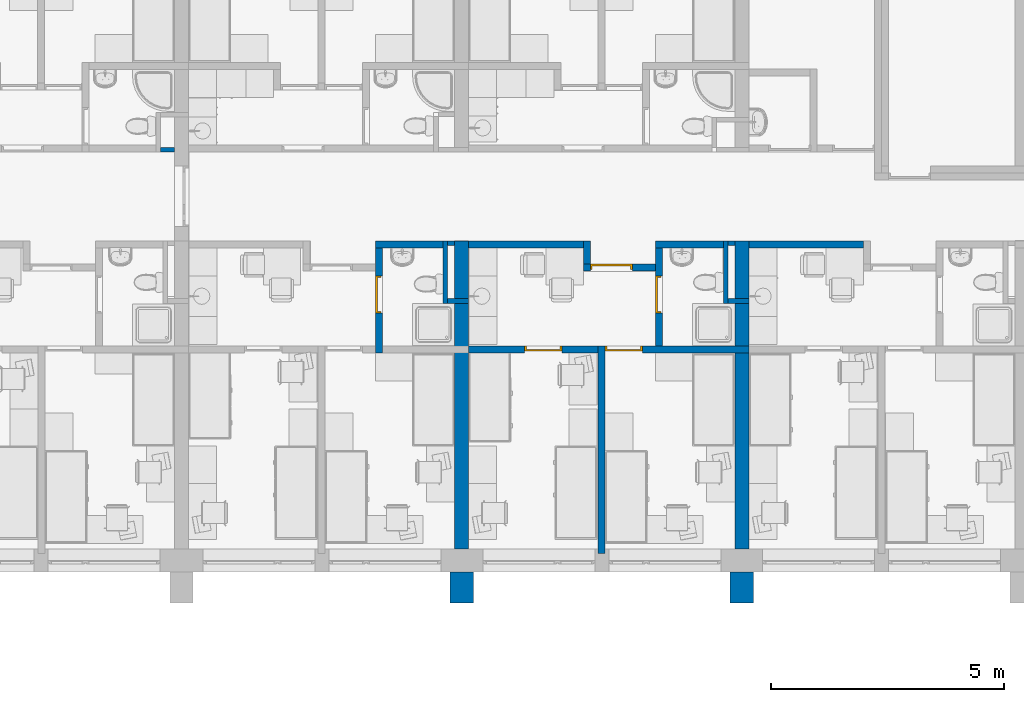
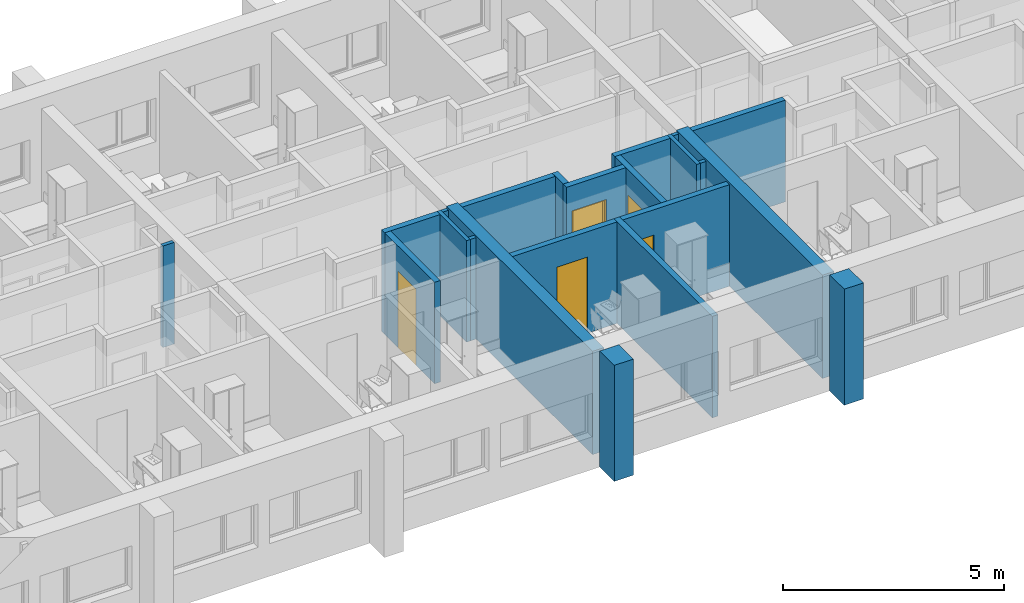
# One storey, part 6 of 165: 21 walls, 5 doors, 5 openings.
"""IFC2X3 building model written with IfcOpenShell, lengths in millimetres."""

from ifc_helpers import new_model, entity, si_unit, converted_unit, money_unit, direction, frame, origin_with_axes, place, context, subcontext, project, spatial, polyline, outline, extrude, faceted_brep, source, transform, mapped, material, material_list, layer, layer_set, layer_usage, type_object, element, fill, save


model = new_model("IFC2X3")

# Units and contexts
model_context = context("Model", 3, precision=1e-05, world=origin_with_axes(), true_north=direction((0.0, 1.0)))
body_context = subcontext(model_context, "Body", "Model", "MODEL_VIEW")
ifc_project = project(units=[si_unit("LENGTHUNIT", "METRE", prefix="MILLI"), si_unit("AREAUNIT", "SQUARE_METRE"), si_unit("VOLUMEUNIT", "CUBIC_METRE"), converted_unit("PLANEANGLEUNIT", "DEGREE", entity("IfcPlaneAngleMeasure", 0.0174532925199), si_unit("PLANEANGLEUNIT", "RADIAN"), dimensions=[0, 0, 0, 0, 0, 0, 0]), si_unit("SOLIDANGLEUNIT", "STERADIAN"), money_unit("USD"), converted_unit("TIMEUNIT", "Year", entity("IfcTimeMeasure", 31556926.0), si_unit("TIMEUNIT", "SECOND"), dimensions=[0, 0, 0, 0, 0, 0, 0]), si_unit("MASSUNIT", "GRAM"), si_unit("THERMODYNAMICTEMPERATUREUNIT", "DEGREE_CELSIUS"), si_unit("LUMINOUSINTENSITYUNIT", "LUMEN")], contexts=[model_context])

# Site, building, storey
site_placement = place(None, origin_with_axes())
site = spatial("IfcSite", under=ifc_project, at=site_placement, Name="Site", CompositionType="ELEMENT")
building_placement = place(site_placement, origin_with_axes())
building = spatial("IfcBuilding", under=site, at=building_placement, Name="Building", CompositionType="ELEMENT")
storey_placement = place(building_placement, frame((0.0, 0.0, 6300.0), z_axis=(0.0, 0.0, 1.0), x_axis=(1.0, 0.0, 0.0)))
storey = spatial("IfcBuildingStorey", under=building, at=storey_placement, Name="4KORRUS", CompositionType="ELEMENT", Elevation=6300.0)

# Walls
ifc_material_1 = material(Name="Olemasolevad seinad tellis, uus viimistlus")
ifc_layer_1 = layer(ifc_material_1, 500.0, ventilated="UNKNOWN")
ifc_layer_set_1 = layer_set([ifc_layer_1], Name="Olemasolevad seinad tellis, uus viimistlus 500")
ifc_layer_usage_1 = layer_usage(ifc_layer_set_1, "AXIS2", "POSITIVE", -100.0)
wall_type_1 = type_object("IfcWallType", Name="Olemasolevad seinad tellis, uus viimistlus 500", PredefinedType="NOTDEFINED")
wall_1_placement = place(storey_placement, frame((-29990.2967033, -20796.6419407, 0.0), z_axis=(0.0, 0.0, 1.0), x_axis=(0.0, 1.0, 0.0)))
element("IfcWallStandardCase", 1, at=wall_1_placement, inside=storey, type_object=wall_type_1, material=ifc_layer_usage_1, Name="VS1", ObjectType="VS1", context=body_context, shape_type="SweptSolid", body=[
    extrude(outline(polyline([(0.0, -100.0), (657.402041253, -100.0), (657.402041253, 400.0), (0.0, 400.0), (0.0, -100.0)])), origin_with_axes(), (0.0, 0.0, 1.0), 3200.0),
])
ifc_layer_usage_2 = layer_usage(ifc_layer_set_1, "AXIS2", "POSITIVE", -100.0)
wall_2_placement = place(storey_placement, frame((-23990.2967033, -20796.6419407, 0.0), z_axis=(0.0, 0.0, 1.0), x_axis=(0.0, 1.0, 0.0)))
element("IfcWallStandardCase", 2, at=wall_2_placement, inside=storey, type_object=wall_type_1, material=ifc_layer_usage_2, Name="VS1", ObjectType="VS1", context=body_context, shape_type="SweptSolid", body=[
    extrude(outline(polyline([(0.0, -100.0), (657.402041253, -100.0), (657.402041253, 400.0), (0.0, 400.0), (0.0, -100.0)])), origin_with_axes(), (0.0, 0.0, 1.0), 3200.0),
])
ifc_material_2 = material(Name="UmbKipsplaat")
ifc_layer_2 = layer(ifc_material_2, 13.0, ventilated="UNKNOWN")
ifc_layer_3 = layer(ifc_material_2, 13.0, ventilated="UNKNOWN")
ifc_material_3 = material(Name="SOOJUSTUS MINERAALVILL")
ifc_layer_4 = layer(ifc_material_3, 98.0, ventilated="UNKNOWN")
ifc_layer_5 = layer(ifc_material_2, 13.0, ventilated="UNKNOWN")
ifc_layer_6 = layer(ifc_material_2, 13.0, ventilated="UNKNOWN")
ifc_layer_set_2 = layer_set([ifc_layer_2, ifc_layer_3, ifc_layer_4, ifc_layer_5, ifc_layer_6], Name="kipssein150")
ifc_layer_usage_3 = layer_usage(ifc_layer_set_2, "AXIS2", "POSITIVE", 0.0)
wall_type_2 = type_object("IfcWallType", Name="kipssein150 150", PredefinedType="NOTDEFINED")
wall_3_placement = place(storey_placement, frame((-21533.8623684, -13039.2398994, 0.0), z_axis=(0.0, 0.0, 1.0), x_axis=(-1.0, 0.0, 0.0)))
element("IfcWallStandardCase", 3, at=wall_3_placement, inside=storey, type_object=wall_type_2, material=ifc_layer_usage_3, Name="SS1", ObjectType="SS1", context=body_context, shape_type="SweptSolid", body=[
    extrude(outline(polyline([(0.0, 0.0), (2456.43433493, 0.0), (2456.43433493, 150.0), (0.0, 150.0), (0.0, 0.0)])), origin_with_axes(), (0.0, 0.0, 1.0), 2800.0),
])
ifc_layer_usage_4 = layer_usage(ifc_layer_set_2, "AXIS2", "POSITIVE", -150.0)
wall_4_placement = place(storey_placement, frame((-25984.201689, -13039.3705726, 0.0), z_axis=(0.0, 0.0, 1.0), x_axis=(1.0, 0.0, 0.0)))
element("IfcWallStandardCase", 4, at=wall_4_placement, inside=storey, type_object=wall_type_2, material=ifc_layer_usage_4, Name="SS1", ObjectType="SS1", context=body_context, shape_type="SweptSolid", body=[
    extrude(outline(polyline([(0.0, -150.0), (1450.19338105, -150.0), (1450.19338105, 0.0), (0.0, 0.0), (0.0, -150.0)])), origin_with_axes(), (0.0, 0.0, 1.0), 2800.0),
])
ifc_layer_usage_5 = layer_usage(ifc_layer_set_2, "AXIS2", "POSITIVE", 0.0)
wall_5_placement = place(storey_placement, frame((-27533.8623684, -13039.2398994, 0.0), z_axis=(0.0, 0.0, 1.0), x_axis=(0.0, -1.0, 0.0)))
element("IfcWallStandardCase", 5, at=wall_5_placement, inside=storey, type_object=wall_type_2, material=ifc_layer_usage_5, Name="SS1", ObjectType="SS1", context=body_context, shape_type="SweptSolid", body=[
    extrude(outline(polyline([(0.0, 0.0), (500.212508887, 0.0), (500.212508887, 150.0), (0.0, 150.0), (0.0, 0.0)])), origin_with_axes(), (0.0, 0.0, 1.0), 2800.0),
])
ifc_layer_usage_6 = layer_usage(ifc_layer_set_2, "AXIS2", "POSITIVE", 0.0)
wall_6_placement = place(storey_placement, frame((-27533.8623684, -13039.2398994, 0.0), z_axis=(0.0, 0.0, 1.0), x_axis=(-1.0, 0.0, 0.0)))
element("IfcWallStandardCase", 6, at=wall_6_placement, inside=storey, type_object=wall_type_2, material=ifc_layer_usage_6, Name="SS1", ObjectType="SS1", context=body_context, shape_type="SweptSolid", body=[
    extrude(outline(polyline([(0.0, 0.0), (2456.43433493, 0.0), (2456.43433493, 150.0), (0.0, 150.0), (0.0, 0.0)])), origin_with_axes(), (0.0, 0.0, 1.0), 2800.0),
])

# Wall, openings, doors
ifc_layer_usage_7 = layer_usage(ifc_layer_set_2, "AXIS2", "POSITIVE", -150.0)
wall_7_placement = place(storey_placement, frame((-23990.2967033, -15439.2398994, 0.0), z_axis=(0.0, 0.0, 1.0), x_axis=(-1.0, 0.0, 0.0)))
wall_7 = element("IfcWallStandardCase", 7, at=wall_7_placement, inside=storey, type_object=wall_type_2, material=ifc_layer_usage_7, Name="SS1", ObjectType="SS1", context=body_context, shape_type="SweptSolid", body=[
    extrude(outline(polyline([(0.0, -150.0), (6000.0, -150.0), (6000.0, 0.0), (0.0, 0.0), (0.0, -150.0)])), origin_with_axes(), (0.0, 0.0, 1.0), 2800.0),
])
opening_1_placement = place(wall_7_placement, frame((4400.0, 0.0, 0.0), z_axis=(0.0, 0.0, 1.0), x_axis=(1.0, 0.0, 0.0)))
opening_1 = element("IfcOpeningElement", 8, at=opening_1_placement, cuts=wall_7, Name="SU3-5", context=body_context, shape_type="SweptSolid", body=[
    extrude(outline(polyline([(-400.0, 0.0), (400.0, 0.0), (400.0, 2100.0), (-400.0, 2100.0), (-400.0, 0.0)])), frame((0.0, 150.0, 0.0), z_axis=(0.0, 1.0, 0.0), x_axis=(-1.0, 0.0, 0.0)), (0.0, 0.0, -1.0), 450.0),
])
opening_2_placement = place(wall_7_placement, frame((2675.0, 0.0, 0.0), z_axis=(0.0, 0.0, 1.0), x_axis=(1.0, 0.0, 0.0)))
opening_2 = element("IfcOpeningElement", 9, at=opening_2_placement, cuts=wall_7, Name="SU3-4", context=body_context, shape_type="SweptSolid", body=[
    extrude(outline(polyline([(-400.0, 0.0), (400.0, 0.0), (400.0, 2100.0), (-400.0, 2100.0), (-400.0, 0.0)])), frame((0.0, 150.0, 0.0), z_axis=(0.0, -1.0, 0.0), x_axis=(1.0, 0.0, 0.0)), (0.0, 0.0, 1.0), 450.0),
])
ifc_material_4 = material(Name="Background")
ifc_material_list = material_list([ifc_material_4])
door_style_1 = type_object("IfcDoorStyle", Name="Door 19", ConstructionType="NOTDEFINED", OperationType="SINGLE_SWING_LEFT", ParameterTakesPrecedence=False, Sizeable=False)
shared_shape_1 = source(origin_with_axes(), body_context, "Body", "Brep", [
    faceted_brep([(360.0, -75.0, 0.0), (360.0, -150.0, 0.0), (360.0, -150.0, 2060.0), (360.0, -75.0, 2060.0), (372.0, -75.0, 0.0), (372.0, -35.0, 0.0), (400.0, -35.0, 0.0), (400.0, -150.0, 0.0), (400.0, -150.0, 2060.0), (372.0, -75.0, 2060.0), (400.0, -35.0, 2060.0), (372.0, -35.0, 2060.0)], [[[0, 1, 2, 3]], [[4, 5, 6, 7, 1, 0]], [[2, 1, 7, 8]], [[9, 3, 2, 8, 10, 11]], [[9, 4, 0, 3]], [[11, 5, 4, 9]], [[11, 10, 6, 5]], [[7, 6, 10, 8]]]),
    faceted_brep([(-372.0, -75.0, 2060.0), (-372.0, -35.0, 2060.0), (-400.0, -35.0, 2060.0), (-400.0, -150.0, 2060.0), (-360.0, -150.0, 2060.0), (-360.0, -75.0, 2060.0), (-372.0, -75.0, 0.0), (-372.0, -35.0, 0.0), (-400.0, -35.0, 0.0), (-400.0, -150.0, 0.0), (-360.0, -150.0, 0.0), (-360.0, -75.0, 0.0)], [[[0, 1, 2, 3, 4, 5]], [[0, 6, 7, 1]], [[7, 8, 2, 1]], [[3, 2, 8, 9]], [[4, 3, 9, 10]], [[5, 4, 10, 11]], [[5, 11, 6, 0]], [[6, 11, 10, 9, 8, 7]]]),
    faceted_brep([(372.0, -35.0, 2072.0), (-372.0, -35.0, 2072.0), (-372.0, -35.0, 2060.0), (-400.0, -35.0, 2060.0), (-400.0, -35.0, 2100.0), (400.0, -35.0, 2100.0), (400.0, -35.0, 2060.0), (372.0, -35.0, 2060.0), (372.0, -75.0, 2072.0), (-372.0, -75.0, 2072.0), (-372.0, -75.0, 2060.0), (-360.0, -75.0, 2060.0), (-360.0, -150.0, 2060.0), (-400.0, -150.0, 2060.0), (-400.0, -150.0, 2100.0), (400.0, -150.0, 2100.0), (400.0, -150.0, 2060.0), (372.0, -75.0, 2060.0), (360.0, -150.0, 2060.0), (360.0, -75.0, 2060.0)], [[[0, 1, 2, 3, 4, 5, 6, 7]], [[0, 8, 9, 1]], [[1, 9, 10, 2]], [[10, 11, 12, 13, 3, 2]], [[14, 4, 3, 13]], [[15, 5, 4, 14]], [[16, 6, 5, 15]], [[17, 7, 6, 16, 18, 19]], [[7, 17, 8, 0]], [[10, 9, 8, 17, 19, 11]], [[19, 18, 12, 11]], [[13, 12, 18, 16, 15, 14]]]),
    faceted_brep([(-372.0, -35.0, 0.0), (372.0, -35.0, 0.0), (372.0, -75.0, 0.0), (-372.0, -75.0, 0.0), (-372.0, -35.0, 2072.0), (372.0, -35.0, 2072.0), (372.0, -75.0, 2072.0), (-372.0, -75.0, 2072.0)], [[[0, 1, 2, 3]], [[0, 4, 5, 1]], [[1, 5, 6, 2]], [[3, 2, 6, 7]], [[4, 0, 3, 7]], [[5, 4, 7, 6]]]),
])
door_1_placement = place(opening_1_placement, frame((-400.0, 0.0, 0.0), z_axis=(0.0, 0.0, 1.0), x_axis=(1.0, 0.0, 0.0)))
door_1 = element("IfcDoor", 10, at=door_1_placement, inside=storey, type_object=door_style_1, material=ifc_material_list, Name="SU3-5", ObjectType="Toa uks", OverallHeight=2100.0, OverallWidth=800.0, context=body_context, shape_type="MappedRepresentation", body=[
    mapped(shared_shape_1, transform((400.0, 0.0, 0.0))),
])
fill(opening_1, door_1)
door_style_2 = type_object("IfcDoorStyle", Name="Door 19", ConstructionType="NOTDEFINED", OperationType="SINGLE_SWING_RIGHT", ParameterTakesPrecedence=False, Sizeable=False)
shared_shape_2 = source(origin_with_axes(), body_context, "Body", "Brep", [
    faceted_brep([(-360.0, -75.0, 0.0), (-360.0, -75.0, 2060.0), (-360.0, -150.0, 2060.0), (-360.0, -150.0, 0.0), (-372.0, -75.0, 2060.0), (-372.0, -75.0, 0.0), (-372.0, -35.0, 2060.0), (-400.0, -35.0, 2060.0), (-400.0, -150.0, 2060.0), (-400.0, -150.0, 0.0), (-400.0, -35.0, 0.0), (-372.0, -35.0, 0.0)], [[[0, 1, 2, 3]], [[4, 1, 0, 5]], [[4, 6, 7, 8, 2, 1]], [[2, 8, 9, 3]], [[5, 0, 3, 9, 10, 11]], [[6, 4, 5, 11]], [[6, 11, 10, 7]], [[9, 8, 7, 10]]]),
    faceted_brep([(372.0, -75.0, 2060.0), (360.0, -75.0, 2060.0), (360.0, -150.0, 2060.0), (400.0, -150.0, 2060.0), (400.0, -35.0, 2060.0), (372.0, -35.0, 2060.0), (372.0, -75.0, 0.0), (360.0, -75.0, 0.0), (360.0, -150.0, 0.0), (400.0, -150.0, 0.0), (400.0, -35.0, 0.0), (372.0, -35.0, 0.0)], [[[0, 1, 2, 3, 4, 5]], [[1, 0, 6, 7]], [[1, 7, 8, 2]], [[2, 8, 9, 3]], [[3, 9, 10, 4]], [[11, 5, 4, 10]], [[0, 5, 11, 6]], [[6, 11, 10, 9, 8, 7]]]),
    faceted_brep([(-372.0, -35.0, 2072.0), (-372.0, -35.0, 2060.0), (-400.0, -35.0, 2060.0), (-400.0, -35.0, 2100.0), (400.0, -35.0, 2100.0), (400.0, -35.0, 2060.0), (372.0, -35.0, 2060.0), (372.0, -35.0, 2072.0), (-372.0, -75.0, 2072.0), (-372.0, -75.0, 2060.0), (-360.0, -75.0, 2060.0), (-360.0, -150.0, 2060.0), (-400.0, -150.0, 2060.0), (-400.0, -150.0, 2100.0), (400.0, -150.0, 2100.0), (400.0, -150.0, 2060.0), (372.0, -75.0, 2060.0), (360.0, -150.0, 2060.0), (360.0, -75.0, 2060.0), (372.0, -75.0, 2072.0)], [[[0, 1, 2, 3, 4, 5, 6, 7]], [[1, 0, 8, 9]], [[9, 10, 11, 12, 2, 1]], [[12, 13, 3, 2]], [[13, 14, 4, 3]], [[14, 15, 5, 4]], [[16, 6, 5, 15, 17, 18]], [[7, 6, 16, 19]], [[0, 7, 19, 8]], [[16, 18, 10, 9, 8, 19]], [[10, 18, 17, 11]], [[15, 14, 13, 12, 11, 17]]]),
    faceted_brep([(372.0, -35.0, 0.0), (372.0, -75.0, 0.0), (-372.0, -75.0, 0.0), (-372.0, -35.0, 0.0), (372.0, -35.0, 2072.0), (372.0, -75.0, 2072.0), (-372.0, -75.0, 2072.0), (-372.0, -35.0, 2072.0)], [[[0, 1, 2, 3]], [[4, 5, 1, 0]], [[1, 5, 6, 2]], [[3, 2, 6, 7]], [[0, 3, 7, 4]], [[7, 6, 5, 4]]]),
])
door_2_placement = place(opening_2_placement, frame((-400.0, 0.0, 0.0), z_axis=(0.0, 0.0, 1.0), x_axis=(1.0, 0.0, 0.0)))
door_2 = element("IfcDoor", 11, at=door_2_placement, inside=storey, type_object=door_style_2, material=ifc_material_list, Name="SU3-4", ObjectType="Toa uks", OverallHeight=2100.0, OverallWidth=800.0, context=body_context, shape_type="MappedRepresentation", body=[
    mapped(shared_shape_2, transform((400.0, 0.0, 0.0))),
])
fill(opening_2, door_2)

# Wall
ifc_layer_usage_8 = layer_usage(ifc_layer_set_2, "AXIS2", "POSITIVE", -150.0)
wall_8_placement = place(storey_placement, frame((-31984.201689, -13039.3705726, 0.0), z_axis=(0.0, 0.0, 1.0), x_axis=(1.0, 0.0, 0.0)))
element("IfcWallStandardCase", 12, at=wall_8_placement, inside=storey, type_object=wall_type_2, material=ifc_layer_usage_8, Name="SS1", ObjectType="SS1", context=body_context, shape_type="SweptSolid", body=[
    extrude(outline(polyline([(0.0, -150.0), (1450.19338105, -150.0), (1450.19338105, 0.0), (0.0, 0.0), (0.0, -150.0)])), origin_with_axes(), (0.0, 0.0, 1.0), 2800.0),
])

# Wall, opening, door
ifc_layer_usage_9 = layer_usage(ifc_layer_set_2, "AXIS2", "POSITIVE", 0.0)
wall_9_placement = place(storey_placement, frame((-25984.201689, -13539.4524083, 0.0), z_axis=(0.0, 0.0, 1.0), x_axis=(-1.0, 0.0, 0.0)))
wall_9 = element("IfcWallStandardCase", 13, at=wall_9_placement, inside=storey, type_object=wall_type_2, material=ifc_layer_usage_9, Name="SS1", ObjectType="SS1", context=body_context, shape_type="SweptSolid", body=[
    extrude(outline(polyline([(0.0, 0.0), (1549.66067938, 0.0), (1549.66067938, 150.0), (0.0, 150.0), (0.0, 0.0)])), origin_with_axes(), (0.0, 0.0, 1.0), 2800.0),
])
opening_3_placement = place(wall_9_placement, frame((949.660679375, 0.0, 0.0), z_axis=(0.0, 0.0, 1.0), x_axis=(1.0, 0.0, 0.0)))
opening_3 = element("IfcOpeningElement", 14, at=opening_3_placement, cuts=wall_9, Name="SU2-6", context=body_context, shape_type="SweptSolid", body=[
    extrude(outline(polyline([(-450.0, -2100.0), (450.0, -2100.0), (450.0, 0.0), (-450.0, 0.0), (-450.0, -2100.0)])), frame((0.0, 150.0, 0.0), z_axis=(0.0, 1.0, 0.0), x_axis=(1.0, 0.0, 0.0)), (0.0, 0.0, -1.0), 450.0),
])
door_style_3 = type_object("IfcDoorStyle", Name="Door 19", ConstructionType="NOTDEFINED", OperationType="SINGLE_SWING_LEFT", ParameterTakesPrecedence=False, Sizeable=False)
shared_shape_3 = source(origin_with_axes(), body_context, "Body", "Brep", [
    faceted_brep([(410.0, -40.0, 0.0), (410.0, -115.0, 0.0), (410.0, -115.0, 2060.0), (410.0, -40.0, 2060.0), (422.0, -40.0, 0.0), (422.0, 0.0, 0.0), (450.0, 0.0, 0.0), (450.0, -115.0, 0.0), (450.0, -115.0, 2060.0), (422.0, -40.0, 2060.0), (450.0, 0.0, 2060.0), (422.0, 0.0, 2060.0)], [[[0, 1, 2, 3]], [[4, 5, 6, 7, 1, 0]], [[2, 1, 7, 8]], [[9, 3, 2, 8, 10, 11]], [[9, 4, 0, 3]], [[11, 5, 4, 9]], [[11, 10, 6, 5]], [[7, 6, 10, 8]]]),
    faceted_brep([(-422.0, -40.0, 2060.0), (-422.0, 0.0, 2060.0), (-450.0, 0.0, 2060.0), (-450.0, -115.0, 2060.0), (-410.0, -115.0, 2060.0), (-410.0, -40.0, 2060.0), (-422.0, -40.0, 0.0), (-422.0, 0.0, 0.0), (-450.0, 0.0, 0.0), (-450.0, -115.0, 0.0), (-410.0, -115.0, 0.0), (-410.0, -40.0, 0.0)], [[[0, 1, 2, 3, 4, 5]], [[0, 6, 7, 1]], [[7, 8, 2, 1]], [[3, 2, 8, 9]], [[4, 3, 9, 10]], [[5, 4, 10, 11]], [[5, 11, 6, 0]], [[6, 11, 10, 9, 8, 7]]]),
    faceted_brep([(422.0, 0.0, 2072.0), (-422.0, 0.0, 2072.0), (-422.0, 0.0, 2060.0), (-450.0, 0.0, 2060.0), (-450.0, 0.0, 2100.0), (450.0, 0.0, 2100.0), (450.0, 0.0, 2060.0), (422.0, 0.0, 2060.0), (422.0, -40.0, 2072.0), (-422.0, -40.0, 2072.0), (-422.0, -40.0, 2060.0), (-410.0, -40.0, 2060.0), (-410.0, -115.0, 2060.0), (-450.0, -115.0, 2060.0), (-450.0, -115.0, 2100.0), (450.0, -115.0, 2100.0), (450.0, -115.0, 2060.0), (422.0, -40.0, 2060.0), (410.0, -115.0, 2060.0), (410.0, -40.0, 2060.0)], [[[0, 1, 2, 3, 4, 5, 6, 7]], [[0, 8, 9, 1]], [[1, 9, 10, 2]], [[10, 11, 12, 13, 3, 2]], [[14, 4, 3, 13]], [[15, 5, 4, 14]], [[16, 6, 5, 15]], [[17, 7, 6, 16, 18, 19]], [[7, 17, 8, 0]], [[10, 9, 8, 17, 19, 11]], [[19, 18, 12, 11]], [[13, 12, 18, 16, 15, 14]]]),
    faceted_brep([(-422.0, 0.0, 0.0), (422.0, 0.0, 0.0), (422.0, -40.0, 0.0), (-422.0, -40.0, 0.0), (-422.0, 0.0, 2072.0), (422.0, 0.0, 2072.0), (422.0, -40.0, 2072.0), (-422.0, -40.0, 2072.0)], [[[0, 1, 2, 3]], [[0, 4, 5, 1]], [[1, 5, 6, 2]], [[3, 2, 6, 7]], [[4, 0, 3, 7]], [[5, 4, 7, 6]]]),
])
door_3_placement = place(opening_3_placement, frame((450.0, 0.0, 0.0), z_axis=(0.0, 0.0, 1.0), x_axis=(-1.0, 0.0, 0.0)))
door_3 = element("IfcDoor", 15, at=door_3_placement, inside=storey, type_object=door_style_3, material=ifc_material_list, Name="SU2-6", ObjectType="Korteri välisuks", OverallHeight=2100.0, OverallWidth=900.0, context=body_context, shape_type="MappedRepresentation", body=[
    mapped(shared_shape_3, transform((450.0, 0.0, 0.0))),
])
fill(opening_3, door_3)

# Wall
ifc_layer_usage_10 = layer_usage(ifc_layer_set_2, "AXIS2", "POSITIVE", 0.0)
wall_10_placement = place(storey_placement, frame((-27070.2967033, -19739.2398994, 0.0), z_axis=(0.0, 0.0, 1.0), x_axis=(0.0, 1.0, 0.0)))
element("IfcWallStandardCase", 16, at=wall_10_placement, inside=storey, type_object=wall_type_2, material=ifc_layer_usage_10, Name="SS1", ObjectType="SS1", context=body_context, shape_type="SweptSolid", body=[
    extrude(outline(polyline([(0.0, 0.0), (4450.0, 0.0), (4450.0, 150.0), (0.0, 150.0), (0.0, 0.0)])), origin_with_axes(), (0.0, 0.0, 1.0), 2800.0),
])

# Wall, opening, door
ifc_layer_usage_11 = layer_usage(ifc_layer_set_2, "AXIS2", "POSITIVE", -150.0)
wall_11_placement = place(storey_placement, frame((-25984.201689, -15289.2398994, 0.0), z_axis=(0.0, 0.0, 1.0), x_axis=(0.0, 1.0, 0.0)))
wall_11 = element("IfcWallStandardCase", 17, at=wall_11_placement, inside=storey, type_object=wall_type_2, material=ifc_layer_usage_11, Name="SS1", ObjectType="SS1", context=body_context, shape_type="SweptSolid", body=[
    extrude(outline(polyline([(0.0, -150.0), (2249.86932682, -150.0), (2249.86932682, 0.0), (0.0, 0.0), (0.0, -150.0)])), origin_with_axes(), (0.0, 0.0, 1.0), 2800.0),
])
opening_4_placement = place(wall_11_placement, frame((1099.78749111, 0.0, 0.0), z_axis=(0.0, 0.0, 1.0), x_axis=(1.0, 0.0, 0.0)))
opening_4 = element("IfcOpeningElement", 18, at=opening_4_placement, cuts=wall_11, Name="SU3-2", context=body_context, shape_type="SweptSolid", body=[
    extrude(outline(polyline([(-400.0, -2100.0), (400.0, -2100.0), (400.0, 0.0), (-400.0, 0.0), (-400.0, -2100.0)])), frame((0.0, -150.0, 0.0), z_axis=(0.0, 1.0, 0.0), x_axis=(1.0, 0.0, 0.0)), (0.0, 0.0, 1.0), 450.0),
])
door_style_4 = type_object("IfcDoorStyle", Name="Door 19", ConstructionType="NOTDEFINED", OperationType="SINGLE_SWING_RIGHT", ParameterTakesPrecedence=False, Sizeable=False)
shared_shape_4 = source(origin_with_axes(), body_context, "Body", "Brep", [
    faceted_brep([(-360.0, -40.0, 0.0), (-360.0, -40.0, 2060.0), (-360.0, -115.0, 2060.0), (-360.0, -115.0, 0.0), (-372.0, -40.0, 2060.0), (-372.0, -40.0, 0.0), (-372.0, 0.0, 2060.0), (-400.0, 0.0, 2060.0), (-400.0, -115.0, 2060.0), (-400.0, -115.0, 0.0), (-400.0, 0.0, 0.0), (-372.0, 0.0, 0.0)], [[[0, 1, 2, 3]], [[4, 1, 0, 5]], [[4, 6, 7, 8, 2, 1]], [[2, 8, 9, 3]], [[5, 0, 3, 9, 10, 11]], [[6, 4, 5, 11]], [[6, 11, 10, 7]], [[9, 8, 7, 10]]]),
    faceted_brep([(372.0, -40.0, 2060.0), (360.0, -40.0, 2060.0), (360.0, -115.0, 2060.0), (400.0, -115.0, 2060.0), (400.0, 0.0, 2060.0), (372.0, 0.0, 2060.0), (372.0, -40.0, 0.0), (360.0, -40.0, 0.0), (360.0, -115.0, 0.0), (400.0, -115.0, 0.0), (400.0, 0.0, 0.0), (372.0, 0.0, 0.0)], [[[0, 1, 2, 3, 4, 5]], [[1, 0, 6, 7]], [[1, 7, 8, 2]], [[2, 8, 9, 3]], [[3, 9, 10, 4]], [[11, 5, 4, 10]], [[0, 5, 11, 6]], [[6, 11, 10, 9, 8, 7]]]),
    faceted_brep([(-372.0, 0.0, 2072.0), (-372.0, 0.0, 2060.0), (-400.0, 0.0, 2060.0), (-400.0, 0.0, 2100.0), (400.0, 0.0, 2100.0), (400.0, 0.0, 2060.0), (372.0, 0.0, 2060.0), (372.0, 0.0, 2072.0), (-372.0, -40.0, 2072.0), (-372.0, -40.0, 2060.0), (-360.0, -40.0, 2060.0), (-360.0, -115.0, 2060.0), (-400.0, -115.0, 2060.0), (-400.0, -115.0, 2100.0), (400.0, -115.0, 2100.0), (400.0, -115.0, 2060.0), (372.0, -40.0, 2060.0), (360.0, -115.0, 2060.0), (360.0, -40.0, 2060.0), (372.0, -40.0, 2072.0)], [[[0, 1, 2, 3, 4, 5, 6, 7]], [[1, 0, 8, 9]], [[9, 10, 11, 12, 2, 1]], [[12, 13, 3, 2]], [[13, 14, 4, 3]], [[14, 15, 5, 4]], [[16, 6, 5, 15, 17, 18]], [[7, 6, 16, 19]], [[0, 7, 19, 8]], [[16, 18, 10, 9, 8, 19]], [[10, 18, 17, 11]], [[15, 14, 13, 12, 11, 17]]]),
    faceted_brep([(372.0, 0.0, 0.0), (372.0, -40.0, 0.0), (-372.0, -40.0, 0.0), (-372.0, 0.0, 0.0), (372.0, 0.0, 2072.0), (372.0, -40.0, 2072.0), (-372.0, -40.0, 2072.0), (-372.0, 0.0, 2072.0)], [[[0, 1, 2, 3]], [[4, 5, 1, 0]], [[1, 5, 6, 2]], [[3, 2, 6, 7]], [[0, 3, 7, 4]], [[7, 6, 5, 4]]]),
])
door_4_placement = place(opening_4_placement, frame((-400.0, 0.0, 0.0), z_axis=(0.0, 0.0, 1.0), x_axis=(1.0, 0.0, 0.0)))
door_4 = element("IfcDoor", 19, at=door_4_placement, inside=storey, type_object=door_style_4, material=ifc_material_list, Name="SU3-2", ObjectType="WC-uks", OverallHeight=2100.0, OverallWidth=800.0, context=body_context, shape_type="MappedRepresentation", body=[
    mapped(shared_shape_4, transform((400.0, 0.0, 0.0))),
])
fill(opening_4, door_4)

ifc_layer_usage_12 = layer_usage(ifc_layer_set_2, "AXIS2", "POSITIVE", -150.0)
wall_12_placement = place(storey_placement, frame((-31984.201689, -15439.2398994, 0.0), z_axis=(0.0, 0.0, 1.0), x_axis=(0.0, 1.0, 0.0)))
wall_12 = element("IfcWallStandardCase", 20, at=wall_12_placement, inside=storey, type_object=wall_type_2, material=ifc_layer_usage_12, Name="SS1", ObjectType="SS1", context=body_context, shape_type="SweptSolid", body=[
    extrude(outline(polyline([(0.0, -150.0), (2399.86932682, -150.0), (2399.86932682, 0.0), (0.0, 0.0), (0.0, -150.0)])), origin_with_axes(), (0.0, 0.0, 1.0), 2800.0),
])
opening_5_placement = place(wall_12_placement, frame((1249.78749111, 0.0, 0.0), z_axis=(0.0, 0.0, 1.0), x_axis=(1.0, 0.0, 0.0)))
opening_5 = element("IfcOpeningElement", 21, at=opening_5_placement, cuts=wall_12, Name="SU3-2", context=body_context, shape_type="SweptSolid", body=[
    extrude(outline(polyline([(-400.0, -2100.0), (400.0, -2100.0), (400.0, 0.0), (-400.0, 0.0), (-400.0, -2100.0)])), frame((0.0, -150.0, 0.0), z_axis=(0.0, 1.0, 0.0), x_axis=(1.0, 0.0, 0.0)), (0.0, 0.0, 1.0), 450.0),
])
door_5_placement = place(opening_5_placement, frame((-400.0, 0.0, 0.0), z_axis=(0.0, 0.0, 1.0), x_axis=(1.0, 0.0, 0.0)))
door_5 = element("IfcDoor", 22, at=door_5_placement, inside=storey, type_object=door_style_4, material=ifc_material_list, Name="SU3-2", ObjectType="WC-uks", OverallHeight=2100.0, OverallWidth=800.0, context=body_context, shape_type="MappedRepresentation", body=[
    mapped(shared_shape_4, transform((400.0, 0.0, 0.0))),
])
fill(opening_5, door_5)

# Walls
ifc_material_5 = material(Name="Olemasolevad seinad tellis, uus viimistlus")
ifc_layer_7 = layer(ifc_material_5, 300.0, ventilated="UNKNOWN")
ifc_layer_set_3 = layer_set([ifc_layer_7], Name="Olemasolevad seinad tellis, uus viimistlus  300")
ifc_layer_usage_13 = layer_usage(ifc_layer_set_3, "AXIS2", "POSITIVE", 0.0)
wall_type_3 = type_object("IfcWallType", Name="Olemasolevad seinad tellis, uus viimistlus  300", PredefinedType="NOTDEFINED")
wall_13_placement = place(storey_placement, frame((-23990.2967033, -19639.2398994, 0.0), z_axis=(0.0, 0.0, 1.0), x_axis=(0.0, 1.0, 0.0)))
element("IfcWallStandardCase", 23, at=wall_13_placement, inside=storey, type_object=wall_type_3, material=ifc_layer_usage_13, Name="KS1", ObjectType="KS1", context=body_context, shape_type="SweptSolid", body=[
    extrude(outline(polyline([(0.0, 0.0), (6599.86932682, 0.0), (6599.86932682, 300.0), (0.0, 300.0), (0.0, 0.0)])), origin_with_axes(), (0.0, 0.0, 1.0), 2850.0),
])
ifc_layer_usage_14 = layer_usage(ifc_layer_set_3, "AXIS2", "POSITIVE", 0.0)
wall_14_placement = place(storey_placement, frame((-29990.2967033, -19639.2398994, 0.0), z_axis=(0.0, 0.0, 1.0), x_axis=(0.0, 1.0, 0.0)))
element("IfcWallStandardCase", 24, at=wall_14_placement, inside=storey, type_object=wall_type_3, material=ifc_layer_usage_14, Name="KS1", ObjectType="KS1", context=body_context, shape_type="SweptSolid", body=[
    extrude(outline(polyline([(0.0, 0.0), (6599.86932682, 0.0), (6599.86932682, 300.0), (0.0, 300.0), (0.0, 0.0)])), origin_with_axes(), (0.0, 0.0, 1.0), 2850.0),
])
ifc_material_6 = material(Name="krohv")
ifc_layer_8 = layer(ifc_material_6, 2.0, ventilated="UNKNOWN")
ifc_layer_9 = layer(ifc_material_6, 10.0, ventilated="UNKNOWN")
ifc_material_7 = material(Name="Kergplokk")
ifc_layer_10 = layer(ifc_material_7, 76.0, ventilated="UNKNOWN")
ifc_layer_11 = layer(ifc_material_6, 10.0, ventilated="UNKNOWN")
ifc_layer_12 = layer(ifc_material_6, 2.0, ventilated="UNKNOWN")
ifc_layer_set_4 = layer_set([ifc_layer_8, ifc_layer_9, ifc_layer_10, ifc_layer_11, ifc_layer_12], Name="Kergplokk Bauroc 100")
ifc_layer_usage_15 = layer_usage(ifc_layer_set_4, "AXIS2", "POSITIVE", 0.0)
wall_type_4 = type_object("IfcWallType", Name="Kergplokk Bauroc 100 100", PredefinedType="NOTDEFINED")
wall_15_placement = place(storey_placement, frame((-36590.008308, -11136.6041088, 0.0), z_axis=(0.0, 0.0, 1.0), x_axis=(1.0, 0.0, 0.0)))
element("IfcWallStandardCase", 25, at=wall_15_placement, inside=storey, type_object=wall_type_4, material=ifc_layer_usage_15, Name="SS1", ObjectType="SS1", context=body_context, shape_type="SweptSolid", body=[
    extrude(outline(polyline([(0.0, 0.0), (299.711604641, 0.0), (299.711604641, 100.0), (0.0, 100.0), (0.0, 0.0)])), origin_with_axes(), (0.0, 0.0, 1.0), 2800.0),
])
ifc_layer_usage_16 = layer_usage(ifc_layer_set_4, "AXIS2", "POSITIVE", -100.0)
wall_16_placement = place(storey_placement, frame((-24434.008308, -13039.3705726, 0.0), z_axis=(0.0, 0.0, 1.0), x_axis=(1.0, 0.0, 0.0)))
element("IfcWallStandardCase", 26, at=wall_16_placement, inside=storey, type_object=wall_type_4, material=ifc_layer_usage_16, Name="SS2", ObjectType="SS2", context=body_context, shape_type="SweptSolid", body=[
    extrude(outline(polyline([(0.0, -100.0), (143.711604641, -100.0), (143.711604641, 0.0), (0.0, 0.0), (0.0, -100.0)])), origin_with_axes(), (0.0, 0.0, 1.0), 2800.0),
])
ifc_layer_usage_17 = layer_usage(ifc_layer_set_4, "AXIS2", "POSITIVE", -100.0)
wall_17_placement = place(storey_placement, frame((-30440.008308, -13039.3705726, 0.0), z_axis=(0.0, 0.0, 1.0), x_axis=(1.0, 0.0, 0.0)))
element("IfcWallStandardCase", 27, at=wall_17_placement, inside=storey, type_object=wall_type_4, material=ifc_layer_usage_17, Name="SS2", ObjectType="SS2", context=body_context, shape_type="SweptSolid", body=[
    extrude(outline(polyline([(0.0, -100.0), (149.711604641, -100.0), (149.711604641, 0.0), (0.0, 0.0), (0.0, -100.0)])), origin_with_axes(), (0.0, 0.0, 1.0), 2800.0),
])
ifc_layer_usage_18 = layer_usage(ifc_layer_set_4, "AXIS2", "POSITIVE", -100.0)
wall_18_placement = place(storey_placement, frame((-23990.2967033, -14380.4716262, 0.0), z_axis=(0.0, 0.0, 1.0), x_axis=(-1.0, 0.0, 0.0)))
element("IfcWallStandardCase", 28, at=wall_18_placement, inside=storey, type_object=wall_type_4, material=ifc_layer_usage_18, Name="SS2", ObjectType="SS2", context=body_context, shape_type="SweptSolid", body=[
    extrude(outline(polyline([(0.0, -100.0), (443.711604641, -100.0), (443.711604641, 0.0), (0.0, 0.0), (0.0, -100.0)])), origin_with_axes(), (0.0, 0.0, 1.0), 2800.0),
])
ifc_layer_usage_19 = layer_usage(ifc_layer_set_4, "AXIS2", "POSITIVE", -100.0)
wall_19_placement = place(storey_placement, frame((-30440.008308, -13039.3705726, 0.0), z_axis=(0.0, 0.0, 1.0), x_axis=(0.0, -1.0, 0.0)))
element("IfcWallStandardCase", 29, at=wall_19_placement, inside=storey, type_object=wall_type_4, material=ifc_layer_usage_19, Name="SS2", ObjectType="SS2", context=body_context, shape_type="SweptSolid", body=[
    extrude(outline(polyline([(0.0, -100.0), (1341.10105359, -100.0), (1341.10105359, 0.0), (0.0, 0.0), (0.0, -100.0)])), origin_with_axes(), (0.0, 0.0, 1.0), 2800.0),
])
ifc_layer_usage_20 = layer_usage(ifc_layer_set_4, "AXIS2", "POSITIVE", -100.0)
wall_20_placement = place(storey_placement, frame((-29990.2967033, -14380.4716262, 0.0), z_axis=(0.0, 0.0, 1.0), x_axis=(-1.0, 0.0, 0.0)))
element("IfcWallStandardCase", 30, at=wall_20_placement, inside=storey, type_object=wall_type_4, material=ifc_layer_usage_20, Name="SS2", ObjectType="SS2", context=body_context, shape_type="SweptSolid", body=[
    extrude(outline(polyline([(0.0, -100.0), (449.711604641, -100.0), (449.711604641, 0.0), (0.0, 0.0), (0.0, -100.0)])), origin_with_axes(), (0.0, 0.0, 1.0), 2800.0),
])
ifc_layer_usage_21 = layer_usage(ifc_layer_set_4, "AXIS2", "POSITIVE", -100.0)
wall_21_placement = place(storey_placement, frame((-24434.008308, -13039.3705726, 0.0), z_axis=(0.0, 0.0, 1.0), x_axis=(0.0, -1.0, 0.0)))
element("IfcWallStandardCase", 31, at=wall_21_placement, inside=storey, type_object=wall_type_4, material=ifc_layer_usage_21, Name="SS2", ObjectType="SS2", context=body_context, shape_type="SweptSolid", body=[
    extrude(outline(polyline([(0.0, -100.0), (1341.10105359, -100.0), (1341.10105359, 0.0), (0.0, 0.0), (0.0, -100.0)])), origin_with_axes(), (0.0, 0.0, 1.0), 2800.0),
])

save(model, "model.ifc")
